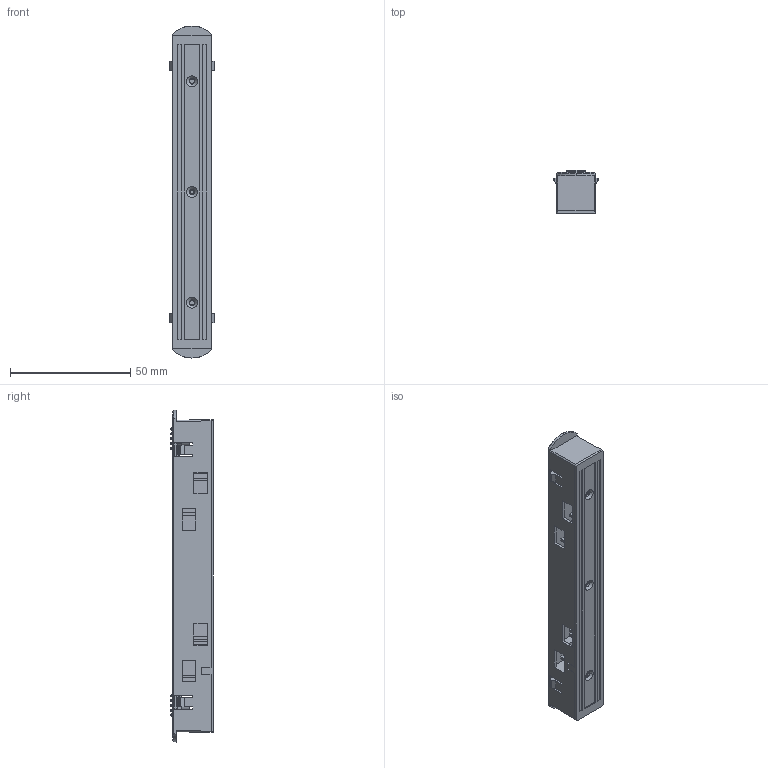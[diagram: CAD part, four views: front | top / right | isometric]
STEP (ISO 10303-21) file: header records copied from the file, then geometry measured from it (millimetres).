
FILE_DESCRIPTION (( 'STEP AP203' ), '1' );
FILE_NAME ('20磁吸直接模块：GN-CX01-5.STEP', '2023-06-21T07:09:00', ( '微软用户' ), ( '微软中国' ), 'SwSTEP 2.0', 'SolidWorks 2014', '' );
FILE_SCHEMA (( 'CONFIG_CONTROL_DESIGN' ));
Length unit declared in the file: millimetre
Products named in the file (8): BP_ASM_4_ASM; NDG_0616_5; NDG_A_0616_3; DIGAI__1; 20磁吸直接模块：GN-CX01-5; DK_0616_2; BP1_4; BP2_3
Assembly tree (8 placements, depth 3):
  20磁吸直接模块：GN-CX01-5
    DK_0616_2
    BP_ASM_4_ASM  x2
      BP1_4
      BP2_3
    NDG_0616_5
    NDG_A_0616_3
    DIGAI__1
Bounding box: 18.4 x 17.8 x 138 mm (x, y, z)
Volume: 16878.5 mm3; surface area: 30809.4 mm2
Topology: 8 solids, 8 shells, 1218 faces, 3252 edges, 2114 vertices
Faces by surface type: plane 834, cylinder 225, cone 81, bspline 56, torus 22
Entity records: 34625 total; most frequent: CARTESIAN_POINT 7541, ORIENTED_EDGE 5666, DIRECTION 5078, EDGE_CURVE 2833, LINE 2268, VECTOR 2268, VERTEX_POINT 1857, AXIS2_PLACEMENT_3D 1405
